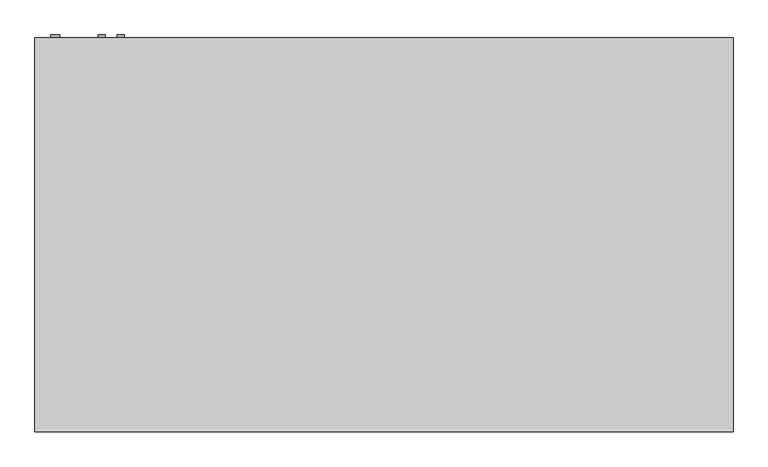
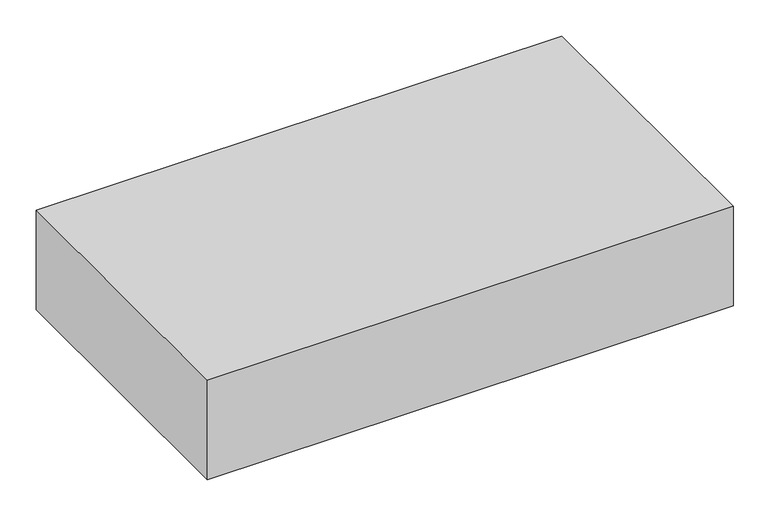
"""IFC4 building model written with IfcOpenShell, lengths in millimetres: proxy geometry, Exposed_Horizontal_Fan_Coil_Unit_-_42CGB_-_CARRIER_-_2-Pipe_Cool-EHeat_BS-BR_LH_2022 : Size 08 - 277v/60Hz/1Ph - 4 Row 6.0kW."""

from ifc_helpers import new_model, si_unit, point, frame, frame_2d, origin, place, context, project, spatial, polyline, circle_curve, trimmed, segment, composite_curve, outline, extrude, source, transform, mapped, element, save


def mechanical_equipment_08224178(model_context):
    return source(origin(), model_context, "Body", "SweptSolid", [
        extrude(outline(polyline([(647.7, -439.7375), (647.7, -611.1875), (-342.9, -611.1875), (-342.9, -439.7375), (647.7, -439.7375)])), frame((0.0, 0.0, -311.15), z_axis=(0.0, 0.0, 1.0), x_axis=(1.0, 0.0, 0.0)), (0.0, 0.0, 1.0), 6.35),
        extrude(outline(composite_curve([segment(trimmed(circle_curve(frame_2d((-60.325, -422.275)), 7.9375), [point((-60.325, -414.3375))], [point((-60.325, -430.2125))], False, "CARTESIAN"), True, "CONTINUOUS"), segment(trimmed(circle_curve(frame_2d((-60.325, -422.275)), 7.9375), [point((-60.325, -430.2125))], [point((-60.325, -414.3375))], False, "CARTESIAN"), True, "CONTINUOUS")], self_intersect=False)), frame((0.0, 192.0875, 0.0), z_axis=(0.0, 1.0, 0.0), x_axis=(0.0, 0.0, 1.0)), (0.0, 0.0, 1.0), 6.35),
        extrude(outline(composite_curve([segment(trimmed(circle_curve(frame_2d((-95.25, -463.55)), 7.9375), [point((-95.25, -455.6125))], [point((-95.25, -471.4875))], False, "CARTESIAN"), True, "CONTINUOUS"), segment(trimmed(circle_curve(frame_2d((-95.25, -463.55)), 7.9375), [point((-95.25, -471.4875))], [point((-95.25, -455.6125))], False, "CARTESIAN"), True, "CONTINUOUS")], self_intersect=False)), frame((0.0, 192.0875, 0.0), z_axis=(0.0, 1.0, 0.0), x_axis=(0.0, 0.0, 1.0)), (0.0, 0.0, 1.0), 6.35),
        extrude(outline(composite_curve([segment(trimmed(circle_curve(frame_2d((-260.35, -565.15)), 9.525), [point((-260.35, -555.625))], [point((-260.35, -574.675))], False, "CARTESIAN"), True, "CONTINUOUS"), segment(trimmed(circle_curve(frame_2d((-260.35, -565.15)), 9.525), [point((-260.35, -574.675))], [point((-260.35, -555.625))], False, "CARTESIAN"), True, "CONTINUOUS")], self_intersect=False)), frame((0.0, 192.0875, 0.0), z_axis=(0.0, 1.0, 0.0), x_axis=(0.0, 0.0, 1.0)), (0.0, 0.0, 1.0), 6.35),
        extrude(outline(polyline([(-609.6, 192.0875), (914.4, 192.0875), (914.4, -668.3375), (-609.6, -668.3375), (-609.6, 192.0875)])), frame((0.0, 0.0, -304.8), z_axis=(0.0, 0.0, 1.0), x_axis=(1.0, 0.0, 0.0)), (0.0, 0.0, 1.0), 304.8),
        extrude(outline(polyline([(673.1, 115.8875), (673.1, -138.1125), (-368.3, -138.1125), (-368.3, 115.8875), (673.1, 115.8875)])), frame((0.0, 0.0, -311.15), z_axis=(0.0, 0.0, 1.0), x_axis=(1.0, 0.0, 0.0)), (0.0, 0.0, 1.0), 6.35),
    ])


if __name__ == "__main__":
    model = new_model("IFC4")
    model_context = context("Model", 3, world=origin())
    ifc_project = project(units=[si_unit("LENGTHUNIT", "METRE", prefix="MILLI")], contexts=[model_context])
    site = spatial("IfcSite", under=ifc_project)
    building = spatial("IfcBuilding", under=site)
    placement = place(None, origin())
    mechanical_equipment_shape = mechanical_equipment_08224178(model_context)
    element("IfcBuildingElementProxy", 1, Name="Exposed_Horizontal_Fan_Coil_Unit_-_42CGB_-_CARRIER_-_2-Pipe_Cool-EHeat_BS-BR_LH_2022 : Size 08 - 277v/60Hz/1Ph - 4 Row 6.0kW", ObjectType="Exposed_Horizontal_Fan_Coil_Unit_-_42CGB_-_CARRIER_-_2-Pipe_Cool-EHeat_BS-BR_LH_2022 : Size 08 - 277v/60Hz/1Ph - 4 Row 6.0kW", at=placement, inside=building, context=model_context, shape_type="MappedRepresentation", body=[
        mapped(mechanical_equipment_shape, transform((0.0, 0.0, 0.0), x_axis=(1.0, 0.0, 0.0), y_axis=(0.0, 1.0, 0.0), z_axis=(0.0, 0.0, 1.0))),
    ])
    save(model, "model.ifc")
